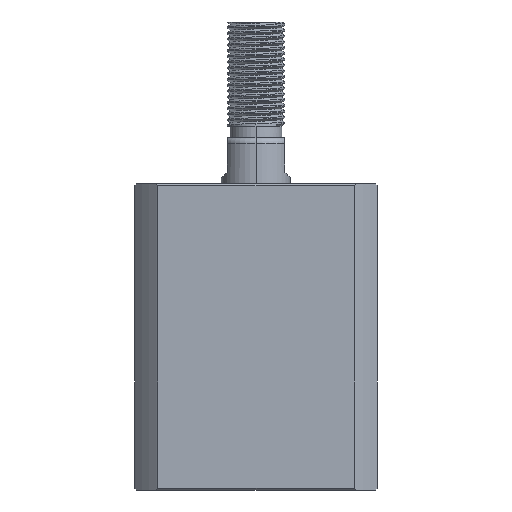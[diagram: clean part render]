
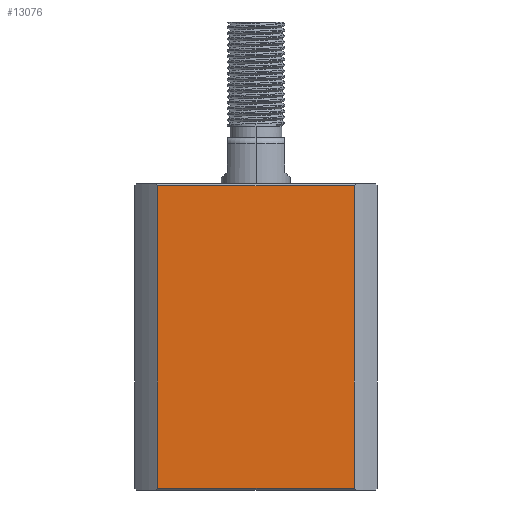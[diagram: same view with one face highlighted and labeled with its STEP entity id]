
A CAD part, left-side view. The second image highlights one B-rep face of the part: STEP entity #13076.
In plain terms, the highlighted planar face has unit normal (-1, 0, 0).
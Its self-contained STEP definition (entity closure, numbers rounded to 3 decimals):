
#180 = CARTESIAN_POINT ( 'NONE',  ( -21., -16.971, 52.7 ) ) ;
#216 = CARTESIAN_POINT ( 'NONE',  ( -21., 16.971, 0.3 ) ) ;
#898 = VERTEX_POINT ( 'NONE', #180 ) ;
#1157 = AXIS2_PLACEMENT_3D ( 'NONE', #2035, #6640, #14684 ) ;
#1521 = EDGE_CURVE ( 'NONE', #898, #6671, #10314, .T. ) ;
#2035 = CARTESIAN_POINT ( 'NONE',  ( -21., 21., 53. ) ) ;
#2053 = DIRECTION ( 'NONE',  ( 0., -1., 0. ) ) ;
#2089 = LINE ( 'NONE', #10792, #13906 ) ;
#2099 = EDGE_CURVE ( 'NONE', #8358, #2855, #12870, .T. ) ;
#2855 = VERTEX_POINT ( 'NONE', #10984 ) ;
#3244 = DIRECTION ( 'NONE',  ( 0., 0., 1. ) ) ;
#4067 = DIRECTION ( 'NONE',  ( 0., 0., -1. ) ) ;
#4362 = VECTOR ( 'NONE', #10430, 1000. ) ;
#4750 = EDGE_LOOP ( 'NONE', ( #12374, #10835, #8508, #13078 ) ) ;
#5503 = CARTESIAN_POINT ( 'NONE',  ( -21., 21., 0.3 ) ) ;
#6640 = DIRECTION ( 'NONE',  ( 1., 0., 0. ) ) ;
#6671 = VERTEX_POINT ( 'NONE', #14254 ) ;
#6822 = VECTOR ( 'NONE', #2053, 1000. ) ;
#7260 = EDGE_CURVE ( 'NONE', #8358, #6671, #9581, .T. ) ;
#8358 = VERTEX_POINT ( 'NONE', #216 ) ;
#8508 = ORIENTED_EDGE ( 'NONE', *, *, #13324, .F. ) ;
#9581 = LINE ( 'NONE', #10035, #12312 ) ;
#10035 = CARTESIAN_POINT ( 'NONE',  ( -21., 16.971, 0. ) ) ;
#10314 = LINE ( 'NONE', #12892, #4362 ) ;
#10430 = DIRECTION ( 'NONE',  ( 0., 1., 0. ) ) ;
#10792 = CARTESIAN_POINT ( 'NONE',  ( -21., -16.971, 0. ) ) ;
#10835 = ORIENTED_EDGE ( 'NONE', *, *, #2099, .T. ) ;
#10984 = CARTESIAN_POINT ( 'NONE',  ( -21., -16.971, 0.3 ) ) ;
#12312 = VECTOR ( 'NONE', #3244, 1000. ) ;
#12374 = ORIENTED_EDGE ( 'NONE', *, *, #7260, .F. ) ;
#12870 = LINE ( 'NONE', #5503, #6822 ) ;
#12892 = CARTESIAN_POINT ( 'NONE',  ( -21., 21., 52.7 ) ) ;
#12984 = FACE_OUTER_BOUND ( 'NONE', #4750, .T. ) ;
#13076 = ADVANCED_FACE ( 'NONE', ( #12984 ), #13495, .F. ) ;
#13078 = ORIENTED_EDGE ( 'NONE', *, *, #1521, .T. ) ;
#13324 = EDGE_CURVE ( 'NONE', #898, #2855, #2089, .T. ) ;
#13495 = PLANE ( 'NONE',  #1157 ) ;
#13906 = VECTOR ( 'NONE', #4067, 1000. ) ;
#14254 = CARTESIAN_POINT ( 'NONE',  ( -21., 16.971, 52.7 ) ) ;
#14684 = DIRECTION ( 'NONE',  ( 0., 1., 0. ) ) ;
